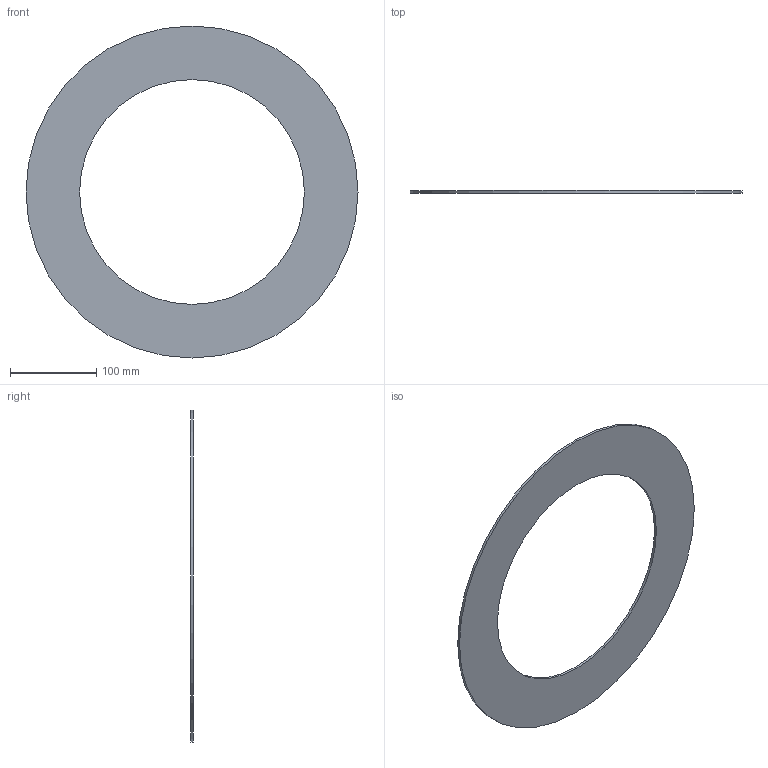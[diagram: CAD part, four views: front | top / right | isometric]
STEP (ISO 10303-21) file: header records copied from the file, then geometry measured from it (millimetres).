
FILE_DESCRIPTION(/* description */ ('Unknown'),/* implementation_level */ '2;1');
FILE_NAME(/* name */ 'GUA.315C',/* time_stamp */ '2021-04-01T12:47:36+02:00',/* author */ ('Unknown'),/* organization */ ('Unknown'),/* preprocessor_version */ 'ST-DEVELOPER v16.7',/* originating_system */ 'Solid Edge',/* authorisation */ 'Unknown');
FILE_SCHEMA (('AUTOMOTIVE_DESIGN {1 0 10303 214 3 1 1}'));
Length unit declared in the file: millimetre
Products named in the file (1): GUA.315C
Bounding box: 384 x 3 x 384 mm (x, y, z)
Volume: 188156.3 mm3; surface area: 131507.1 mm2
Topology: 1 solids, 1 shells, 4 faces, 6 edges, 4 vertices
Faces by surface type: cylinder 2, plane 2
Full cylindrical faces by diameter (mm): 260 x1, 384 x1
Entity records: 118 total; most frequent: DIRECTION 18, CARTESIAN_POINT 13, AXIS2_PLACEMENT_3D 9, ORIENTED_EDGE 8, EDGE_LOOP 8, FACE_BOUND 8, EDGE_CURVE 4, VERTEX_POINT 4
